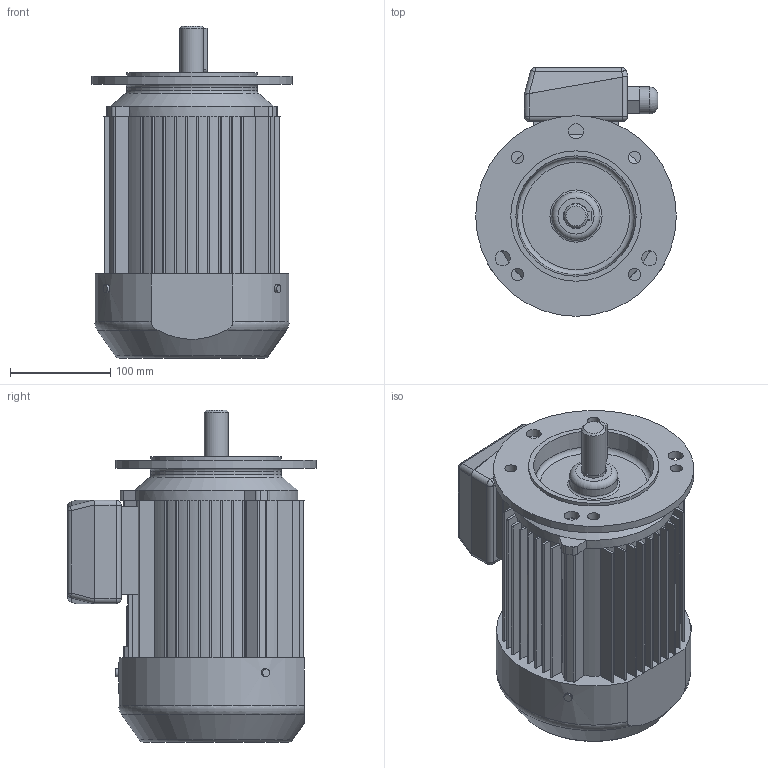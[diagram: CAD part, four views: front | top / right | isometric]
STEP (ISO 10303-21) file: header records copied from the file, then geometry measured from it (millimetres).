
FILE_DESCRIPTION(/* description */ ('Unknown'),/* implementation_level */ '2;1');
FILE_NAME(/* name */ 'Ex 3SIEK90S2,4,6;L2 – 2G,2D,2G&2D – IMB5',/* time_stamp */ '2023-05-11T08:02:10+02:00',/* author */ ('Unknown'),/* organization */ ('Unknown'),/* preprocessor_version */ 'ST-DEVELOPER v16.7',/* originating_system */ 'DEX',/* authorisation */ $);
FILE_SCHEMA (('AUTOMOTIVE_DESIGN {1 0 10303 214 3 1 1}'));
Length unit declared in the file: millimetre
Products named in the file (1): 3SIEK90S2,4,6,L2
Bounding box: 200 x 248 x 331 mm (x, y, z)
Volume: 6980142.5 mm3; surface area: 394994.9 mm2
Topology: 2 solids, 2 shells, 504 faces, 1343 edges, 856 vertices
Faces by surface type: plane 275, cylinder 131, bspline 78, torus 8, sphere 8, cone 4
Full cylindrical faces by diameter (mm): 8 x3, 12 x4, 15 x3, 24 x1, 25 x1, 27 x1, 48 x1, 130 x2, 200 x1
Entity records: 19075 total; most frequent: CARTESIAN_POINT 6969, ORIENTED_EDGE 2590, DIRECTION 2334, EDGE_CURVE 1295, VERTEX_POINT 844, LINE 782, VECTOR 782, AXIS2_PLACEMENT_3D 776
